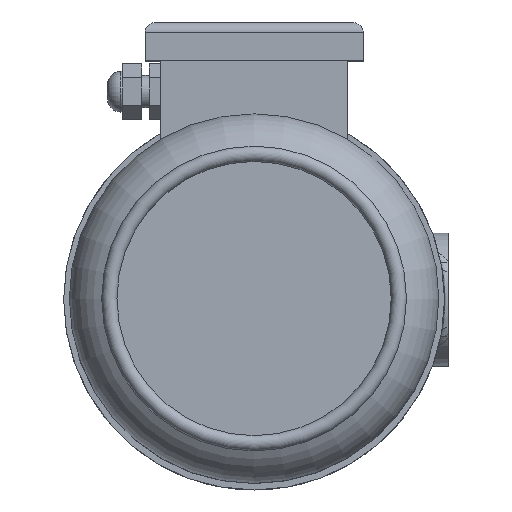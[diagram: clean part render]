
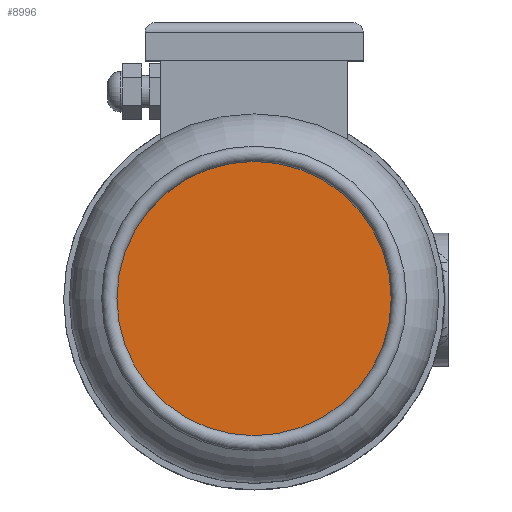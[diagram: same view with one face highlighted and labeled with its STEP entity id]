
A CAD part, top view. The second image highlights one B-rep face of the part: STEP entity #8996.
In plain terms, the highlighted planar face has unit normal (0, 0, 1).
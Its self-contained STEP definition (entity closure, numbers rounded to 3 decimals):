
#569=PLANE('',#9949);
#1169=CIRCLE('',#9950,72.);
#3696=ORIENTED_EDGE('',*,*,#5070,.F.);
#5070=EDGE_CURVE('',#5977,#5977,#1169,.T.);
#5977=VERTEX_POINT('',#18828);
#7765=EDGE_LOOP('',(#3696));
#8379=FACE_BOUND('',#7765,.T.);
#8996=ADVANCED_FACE('',(#8379),#569,.T.);
#9949=AXIS2_PLACEMENT_3D('',#18826,#12365,#12366);
#9950=AXIS2_PLACEMENT_3D('',#18827,#12367,#12368);
#12365=DIRECTION('',(0.,0.,1.));
#12366=DIRECTION('',(1.,0.,0.));
#12367=DIRECTION('',(0.,0.,-1.));
#12368=DIRECTION('',(-1.,0.,0.));
#18826=CARTESIAN_POINT('',(-72.,0.,632.64));
#18827=CARTESIAN_POINT('',(0.,0.,632.64));
#18828=CARTESIAN_POINT('',(-72.,0.,632.64));
